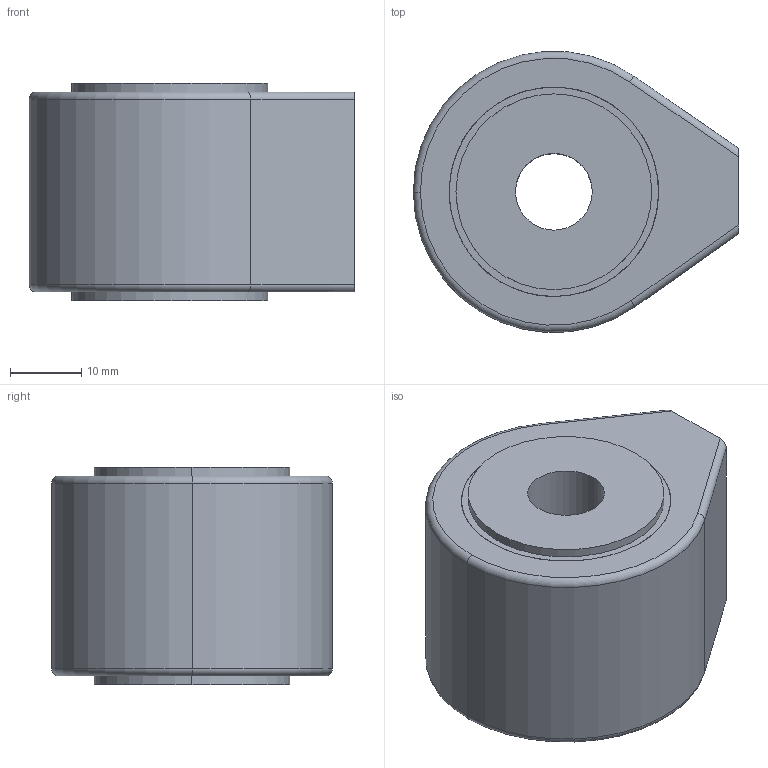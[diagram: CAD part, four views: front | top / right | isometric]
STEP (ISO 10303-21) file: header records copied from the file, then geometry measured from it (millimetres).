
FILE_DESCRIPTION (( 'STEP AP203' ), '1' );
FILE_NAME ('DW-TRHT10-XXXX Triggy HT10.STEP', '2022-02-25T15:31:21', ( '' ), ( '' ), 'SwSTEP 2.0', 'SolidWorks 2021', '' );
FILE_SCHEMA (( 'CONFIG_CONTROL_DESIGN' ));
Length unit declared in the file: millimetre
Products named in the file (4): DW-TRBAXX-XXXX- BAGUE SIMPLIFIEE_HT10; DW-TRHT10-XXXX Triggy HT10; DW-TRENXX-XXXX- ENTRETOISE SIMPLIFIEE_HT10; DW-TRENXX-0000-Enrobage simplifie TRIGGYS_HT10
Assembly tree (3 placements, depth 2):
  DW-TRHT10-XXXX Triggy HT10
    DW-TRENXX-XXXX- ENTRETOISE SIMPLIFIEE_HT10
    DW-TRBAXX-XXXX- BAGUE SIMPLIFIEE_HT10
    DW-TRENXX-0000-Enrobage simplifie TRIGGYS_HT10
Bounding box: 45.83 x 39.52 x 30.7 mm (x, y, z)
Volume: 37171.3 mm3; surface area: 17576.9 mm2
Topology: 3 solids, 3 shells, 206 faces, 550 edges, 364 vertices
Faces by surface type: bspline 97, plane 89, cylinder 16, torus 4
Entity records: 7515 total; most frequent: CARTESIAN_POINT 2616, ORIENTED_EDGE 1100, DIRECTION 609, EDGE_CURVE 550, VERTEX_POINT 364, VECTOR 311, LINE 311, EDGE_LOOP 226
